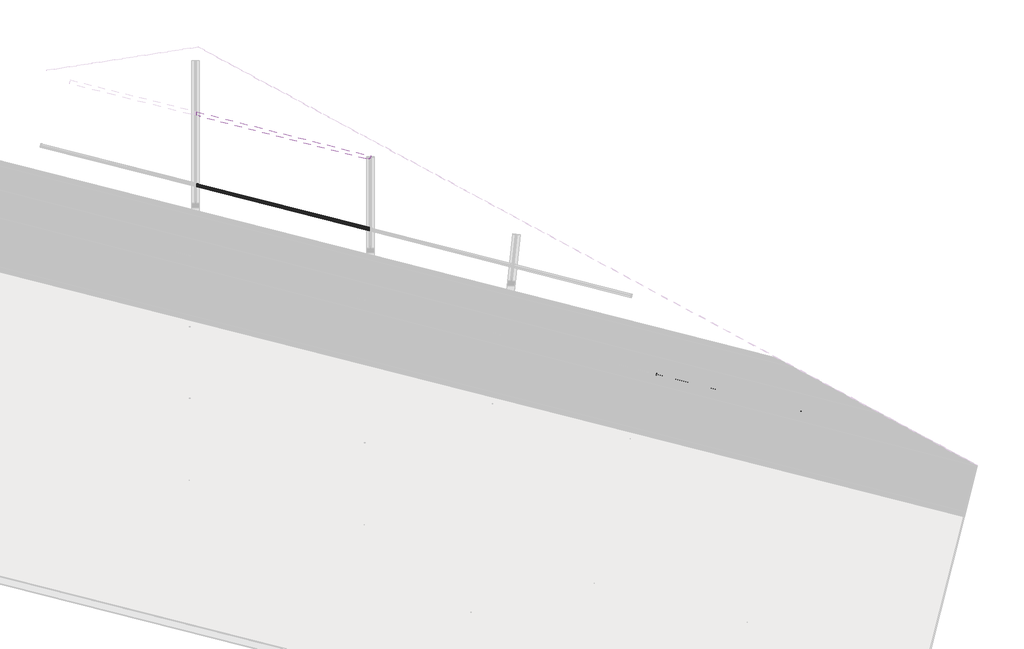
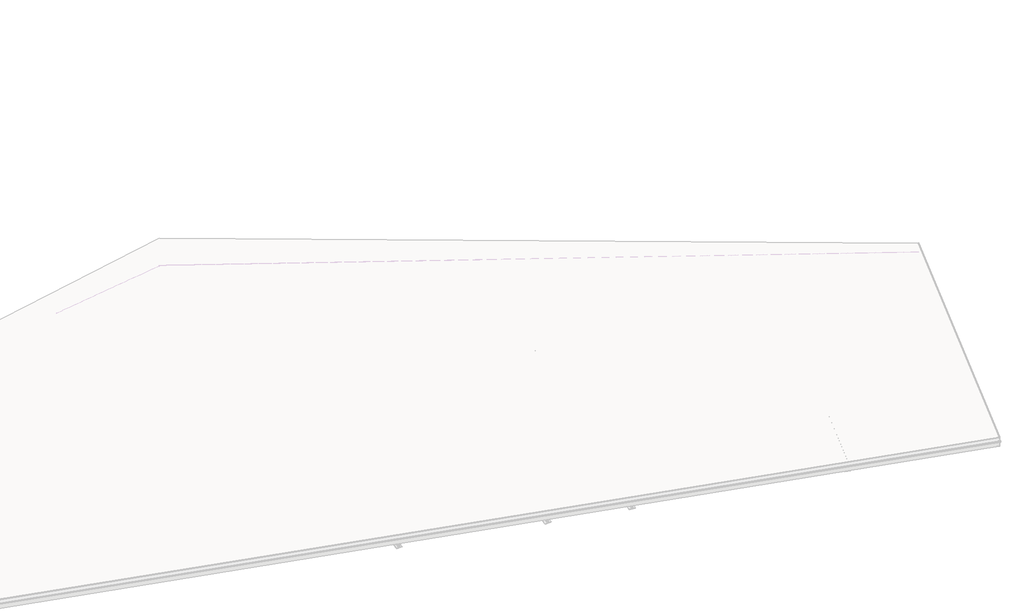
# One storey, part 10 of 10: 5 beams.
"""IFC4 building model written with IfcOpenShell, lengths in millimetres."""

from ifc_helpers import new_model, si_unit, frame, origin, place, context, project, spatial, polyline, circle_curve, ellipse_curve, element, save
from ifc_brep_helpers import plane_surface, cylinder_surface, revolved_surface, advanced_brep

model = new_model("IFC4")

# Units and contexts
model_context = context("Model", 3, world=origin())
ifc_project = project(units=[si_unit("LENGTHUNIT", "METRE", prefix="MILLI")], contexts=[model_context])

# Site, building, storey
site = spatial("IfcSite", under=ifc_project)
building = spatial("IfcBuilding", under=site)
storey = spatial("IfcBuildingStorey", under=building, Name="2 Toiture batiment", Elevation=872910.0)

# Beams
placement = place(None, origin())
element("IfcBeam", 1, ObjectType="IPE : IPE160", at=placement, inside=storey, context=model_context, shape_type="AdvancedBrep", body=[
    advanced_brep(
    [(51715.4096691, 892.2085035, 873605.6408142), (51715.632162, 893.0824599, 873598.2959727), (51735.7117389, 971.9554263, 873608.2892588), (51735.489246, 971.0814698, 873615.6341003), (51728.2654958, 942.7064392, 873612.0389547), (51725.7910403, 932.9867302, 873619.875046), (51721.9665675, 917.964127, 873746.1269165), (51723.899824, 925.557996, 873756.1566559), (51731.1235742, 953.9330266, 873759.7518016), (51730.9010813, 953.0590701, 873767.0966431), (51710.8215043, 874.1861038, 873757.1033569), (51711.0439973, 875.0600602, 873749.7585154), (51718.2677475, 903.4350908, 873753.353661), (51720.742203, 913.1547998, 873745.5175698), (51724.5666758, 928.177403, 873619.2656993), (51722.6334193, 920.583534, 873609.2359598), (47848.3158636, 1906.9120717, 873609.2359598), (47841.0921133, 1878.5370411, 873605.6408142), (47850.2491201, 1914.5059406, 873619.2656993), (47924.9208469, 1879.4996782, 873745.5175698), (47925.3719417, 1881.2715871, 873730.6262221), (47846.875742, 1901.2552463, 873730.6262221), (47922.4463914, 1869.7799692, 873753.353661), (47915.2226412, 1841.4049386, 873749.7585154), (47915.0001483, 1840.5309821, 873757.1033569), (47935.0797252, 1919.4039485, 873767.0966431), (47935.3022182, 1920.277905, 873759.7518016), (47928.0784679, 1891.9028744, 873756.1566559), (47926.1452114, 1884.3090054, 873746.1269165), (47851.4734845, 1919.3152678, 873619.875046), (47848.1003929, 1906.0656987, 873731.2261128), (47926.5965926, 1886.0820394, 873731.2261128), (47853.94794, 1929.0349769, 873612.0389547), (47861.1716903, 1957.4100074, 873615.6341003), (47861.3941832, 1958.2839639, 873608.2892588), (47841.3146062, 1879.4109976, 873598.2959727)],
    [
        (0, 1),
        (1, 2),
        (2, 3),
        (3, 4),
        (4, 5, circle_curve(frame((51727.9948963, 941.6435192, 873620.9718701), z_axis=(-0.9690888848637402, 0.24671184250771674, 0.0), x_axis=(0.24487288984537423, 0.9618654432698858, 0.12186934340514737)), 9.0)),
        (5, 6),
        (6, 7, circle_curve(frame((51724.1704235, 926.620916, 873747.2237406), z_axis=(-0.9690888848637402, 0.24671184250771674, 0.0), x_axis=(0.24487288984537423, 0.9618654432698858, 0.12186934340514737)), 9.0)),
        (7, 8),
        (8, 9),
        (9, 10),
        (10, 11),
        (11, 12),
        (12, 13, circle_curve(frame((51718.538347, 904.4980108, 873744.4207457), z_axis=(-0.9690888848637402, 0.24671184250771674, 0.0), x_axis=(0.24487288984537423, 0.9618654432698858, 0.12186934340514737)), 9.0)),
        (13, 14),
        (14, 15, circle_curve(frame((51722.3628198, 919.520614, 873618.1688752), z_axis=(-0.9690888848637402, 0.24671184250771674, 0.0), x_axis=(0.24487288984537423, 0.9618654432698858, 0.12186934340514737)), 9.0)),
        (15, 0),
        (15, 16),
        (16, 17),
        (17, 0),
        (14, 18),
        (18, 16, circle_curve(frame((47848.0452641, 1905.8491516, 873618.1688752), z_axis=(-0.9690888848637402, 0.24671184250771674, 0.0), x_axis=(0.24487288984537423, 0.9618654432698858, 0.12186934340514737)), 9.0)),
        (13, 19),
        (19, 20),
        (20, 21),
        (21, 18),
        (12, 22),
        (22, 19, circle_curve(frame((47922.7169909, 1870.8428892, 873744.4207457), z_axis=(-0.9690888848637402, 0.24671184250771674, 0.0), x_axis=(0.24487288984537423, 0.9618654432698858, 0.12186934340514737)), 9.0)),
        (11, 23),
        (23, 22),
        (10, 24),
        (24, 23),
        (9, 25),
        (25, 24),
        (8, 26),
        (26, 25),
        (7, 27),
        (27, 26),
        (6, 28),
        (28, 27, circle_curve(frame((47928.3490674, 1892.9657944, 873747.2237406), z_axis=(-0.9690888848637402, 0.24671184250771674, 0.0), x_axis=(0.24487288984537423, 0.9618654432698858, 0.12186934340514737)), 9.0)),
        (5, 29),
        (29, 30),
        (30, 31),
        (31, 28),
        (4, 32),
        (32, 29, circle_curve(frame((47853.6773405, 1927.9720568, 873620.9718701), z_axis=(-0.9690888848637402, 0.24671184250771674, 0.0), x_axis=(0.24487288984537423, 0.9618654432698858, 0.12186934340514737)), 9.0)),
        (3, 33),
        (33, 32),
        (2, 34),
        (34, 33),
        (1, 35),
        (35, 34),
        (17, 35),
        (31, 20),
        (30, 21),
    ],
    [
        plane_surface(frame((51723.2666216, 923.070765, 873682.6963079), z_axis=(0.9690888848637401, -0.24671184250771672, 0.0), x_axis=(-0.03006661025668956, -0.11810222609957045, 0.992546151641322))),
        plane_surface(frame((47814.8269075, 1885.2236696, 873605.6408142), z_axis=(-0.03006661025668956, -0.11810222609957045, 0.9925461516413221), x_axis=(0.9690888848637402, -0.24671184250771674, 0.0))),
        revolved_surface(polyline([(51724.56667582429, 928.1774029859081, 873619.2656992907), (47850.24912010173, 1914.5059406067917, 873619.2656992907)]), (47821.7800582, 1912.5357801, 873618.1688752), (0.9690888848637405, -0.2467118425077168, 0.0)),
        plane_surface(frame((47823.9839143, 1921.1925691, 873619.2656993), z_axis=(-0.24487288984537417, -0.9618654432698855, -0.12186934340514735), x_axis=(0.9690888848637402, -0.24671184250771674, 0.0))),
        revolved_surface(polyline([(51720.742203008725, 913.1547997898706, 873745.5175697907), (47924.920846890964, 1879.4996781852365, 873745.5175697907)]), (47817.9555854, 1897.5131769, 873744.4207457), (0.9690888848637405, -0.2467118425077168, 0.0)),
        plane_surface(frame((47817.6849859, 1896.4502569, 873753.353661), z_axis=(0.03006661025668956, 0.11810222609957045, -0.9925461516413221), x_axis=(0.9690888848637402, -0.24671184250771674, 0.0))),
        plane_surface(frame((47810.4612357, 1868.0752263, 873749.7585154), z_axis=(-0.24487288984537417, -0.9618654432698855, -0.12186934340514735), x_axis=(0.9690888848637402, -0.24671184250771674, 0.0))),
        plane_surface(frame((47810.2387428, 1867.2012698, 873757.1033569), z_axis=(-0.03006661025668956, -0.11810222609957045, 0.9925461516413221), x_axis=(0.9690888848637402, -0.24671184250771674, 0.0))),
        plane_surface(frame((47830.3183197, 1946.0742362, 873767.0966431), z_axis=(0.24487288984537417, 0.9618654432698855, 0.12186934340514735), x_axis=(0.9690888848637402, -0.24671184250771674, 0.0))),
        plane_surface(frame((47830.5408126, 1946.9481927, 873759.7518016), z_axis=(0.03006661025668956, 0.11810222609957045, -0.9925461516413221), x_axis=(0.9690888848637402, -0.24671184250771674, 0.0))),
        revolved_surface(polyline([(51726.37427951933, 935.2777049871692, 873748.3205646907), (47930.55292339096, 1901.6225833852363, 873748.3205646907)]), (47823.5876619, 1919.6360821, 873747.2237406), (0.9690888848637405, -0.2467118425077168, 0.0)),
        plane_surface(frame((47821.3838059, 1910.9792931, 873746.1269165), z_axis=(0.24487288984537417, 0.9618654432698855, 0.12186934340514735), x_axis=(0.9690888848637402, -0.24671184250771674, 0.0))),
        revolved_surface(polyline([(51730.198752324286, 950.300308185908, 873622.0686941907), (47855.88119651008, 1936.628845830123, 873622.0686941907)]), (47827.4121347, 1934.6586853, 873620.9718701), (0.9690888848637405, -0.2467118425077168, 0.0)),
        plane_surface(frame((47827.6827342, 1935.7216053, 873612.0389547), z_axis=(-0.03006661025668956, -0.11810222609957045, 0.9925461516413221), x_axis=(0.9690888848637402, -0.24671184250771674, 0.0))),
        plane_surface(frame((47834.9064845, 1964.0966359, 873615.6341003), z_axis=(0.24487288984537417, 0.9618654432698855, 0.12186934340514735), x_axis=(0.9690888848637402, -0.24671184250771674, 0.0))),
        plane_surface(frame((47835.1289774, 1964.9705924, 873608.2892588), z_axis=(0.03006661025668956, 0.11810222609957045, -0.9925461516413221), x_axis=(0.9690888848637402, -0.24671184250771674, 0.0))),
        plane_surface(frame((47815.0494004, 1886.097626, 873598.2959727), z_axis=(-0.24487288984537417, -0.9618654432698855, -0.12186934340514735), x_axis=(0.9690888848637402, -0.24671184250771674, 0.0))),
        plane_surface(frame((48468.6494081, 4015.2759737, 874049.8321259), z_axis=(-0.9690888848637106, 0.24671184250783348, 0.0), x_axis=(-0.24492973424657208, -0.9620887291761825, -0.11997792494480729))),
        plane_surface(frame((48470.2093268, 4021.4033644, 873997.5128012), z_axis=(-0.029599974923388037, -0.1162692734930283, 0.992776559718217), x_axis=(-0.24492973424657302, -0.9620887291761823, -0.11997792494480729))),
        plane_surface(frame((48391.7131271, 4041.3870236, 873997.5128012), z_axis=(-0.9690888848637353, 0.24671184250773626, 0.0), x_axis=(-0.24492973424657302, -0.9620887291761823, -0.11997792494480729))),
    ],
    [
        (0, [[1, 2, 3, 4, 5, 6, 7, 8, 9, 10, 11, 12, 13, 14, 15, 16]]),
        (1, [[-16, 17, 18, 19]]),
        (2, [[-15, 20, 21, -17]]),
        (3, [[-14, 22, 23, 24, 25, -20]]),
        (4, [[-13, 26, 27, -22]]),
        (5, [[-12, 28, 29, -26]]),
        (6, [[-11, 30, 31, -28]]),
        (7, [[-10, 32, 33, -30]]),
        (8, [[-9, 34, 35, -32]]),
        (9, [[-8, 36, 37, -34]]),
        (10, [[-7, 38, 39, -36]]),
        (11, [[-6, 40, 41, 42, 43, -38]]),
        (12, [[-5, 44, 45, -40]]),
        (13, [[-4, 46, 47, -44]]),
        (14, [[-3, 48, 49, -46]]),
        (15, [[-2, 50, 51, -48]]),
        (16, [[-1, -19, 52, -50]]),
        (17, [[53, -23, -27, -29, -31, -33, -35, -37, -39, -43]]),
        (18, [[-53, -42, 54, -24]]),
        (19, [[-54, -41, -45, -47, -49, -51, -52, -18, -21, -25]]),
    ],
),
])
element("IfcBeam", 2, ObjectType="IPE : IPE160", at=placement, inside=storey, context=model_context, shape_type="AdvancedBrep", body=[
    advanced_brep(
    [(44512.6174905, 4488.0884133, 873823.2413242), (44519.8502292, 4516.4611556, 873826.8364579), (44521.8085619, 4524.0486406, 873836.866164), (44518.2997414, 4508.9456783, 873963.1176143), (44515.8448775, 4499.2209816, 873970.9536795), (44508.6121387, 4470.8482394, 873967.3585458), (44508.4080093, 4469.9696079, 873974.7033629), (44528.5125712, 4548.8362135, 873984.6966158), (44528.7167007, 4549.714845, 873977.3517987), (44521.483962, 4521.3421027, 873973.756665), (44519.5256293, 4513.7546177, 873963.726959), (44523.0344498, 4528.85758, 873837.4755087), (44525.4893137, 4538.5822767, 873829.6394435), (44532.7220524, 4566.955019, 873833.2345771), (44532.9261819, 4567.8336504, 873825.88976), (44512.82162, 4488.9670448, 873815.8965071), (48215.8888977, 3545.3050149, 873813.3823684), (48223.112648, 3573.6800455, 873816.977526), (48225.0459045, 3581.2739145, 873827.0072988), (48221.713221, 3568.1830691, 873937.0247968), (48143.2232591, 3588.1912304, 873937.0278523), (48142.725232, 3586.2349706, 873953.4685643), (48140.2507765, 3576.5152615, 873961.3046817), (48133.0270263, 3548.140231, 873957.7095241), (48132.8045333, 3547.2662745, 873965.0543901), (48152.8841103, 3626.1392408, 873975.0477095), (48153.1066032, 3627.0131973, 873967.7028435), (48145.882853, 3598.6381667, 873964.1076859), (48143.9495965, 3591.0442978, 873954.0779131), (48144.44791, 3593.0016831, 873937.6277431), (48222.9378719, 3572.9935217, 873937.6246875), (48226.270269, 3586.0832417, 873827.6166476), (48228.7447245, 3595.8029507, 873819.7805302), (48235.9684747, 3624.1779813, 873823.3756878), (48236.1909676, 3625.0519378, 873816.0308218), (48216.1113907, 3546.1789714, 873806.0375024)],
    [
        (0, 1),
        (1, 2, circle_curve(frame((44519.6019636, 4515.3925498, 873835.7693435), z_axis=(0.9690856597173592, -0.2467110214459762, -0.0025799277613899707), x_axis=(0.24517758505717, 0.9617878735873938, 0.12186893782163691)), 9.0)),
        (2, 3),
        (3, 4, circle_curve(frame((44516.0931431, 4500.2895874, 873962.0207938), z_axis=(0.9690856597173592, -0.2467110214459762, -0.0025799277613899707), x_axis=(0.24517758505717, 0.9617878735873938, 0.12186893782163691)), 9.0)),
        (4, 5),
        (5, 6),
        (6, 7),
        (7, 8),
        (8, 9),
        (9, 10, circle_curve(frame((44521.7322276, 4522.4107085, 873964.8237794), z_axis=(0.9690856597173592, -0.2467110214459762, -0.0025799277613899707), x_axis=(0.24517758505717, 0.9617878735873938, 0.12186893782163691)), 9.0)),
        (10, 11),
        (11, 12, circle_curve(frame((44525.2410481, 4537.5136709, 873838.5723291), z_axis=(0.9690856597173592, -0.2467110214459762, -0.0025799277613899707), x_axis=(0.24517758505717, 0.9617878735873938, 0.12186893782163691)), 9.0)),
        (12, 13),
        (13, 14),
        (14, 15),
        (15, 0),
        (0, 16),
        (16, 17),
        (17, 1),
        (17, 18, ellipse_curve(frame((48222.8420485, 3572.6171255, 873825.9104711), z_axis=(0.9690888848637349, -0.24671184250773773, 0.0), x_axis=(2.0655890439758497e-12, 8.337664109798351e-12, -1.0)), 9.00003, 9.0)),
        (18, 2),
        (18, 19),
        (19, 20),
        (20, 21),
        (21, 3),
        (21, 22, ellipse_curve(frame((48140.521376, 3577.5781816, 873952.3717366), z_axis=(0.9690888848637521, -0.24671184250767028, 0.0), x_axis=(-5.120939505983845e-12, -1.766508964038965e-11, -0.9999999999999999)), 9.00003, 9.0)),
        (22, 4),
        (22, 23),
        (23, 5),
        (23, 24),
        (24, 6),
        (24, 25),
        (25, 7),
        (25, 26),
        (26, 8),
        (26, 27),
        (27, 9),
        (27, 28, ellipse_curve(frame((48146.1534525, 3599.7010868, 873955.1747408), z_axis=(0.9690888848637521, -0.24671184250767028, 0.0), x_axis=(-5.120939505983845e-12, -1.766508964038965e-11, -0.9999999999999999)), 9.00003, 9.0)),
        (28, 10),
        (28, 29),
        (29, 30),
        (30, 31),
        (31, 11),
        (31, 32, ellipse_curve(frame((48228.474125, 3594.7400307, 873828.7134753), z_axis=(0.9690888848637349, -0.24671184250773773, 0.0), x_axis=(2.0655890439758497e-12, 8.337664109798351e-12, -1.0)), 9.00003, 9.0)),
        (32, 12),
        (32, 33),
        (33, 13),
        (33, 34),
        (34, 14),
        (34, 35),
        (35, 15),
        (35, 16),
        (30, 19),
        (29, 20),
    ],
    [
        plane_surface(frame((44520.6670956, 4518.9016292, 873900.2965615), z_axis=(-0.969085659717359, 0.24671102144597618, 0.002579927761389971), x_axis=(-0.02758506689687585, -0.11873398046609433, 0.9925428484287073))),
        plane_surface(frame((44512.6174905, 4488.0884133, 873823.2413242), z_axis=(-0.027585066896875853, -0.11873398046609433, 0.9925428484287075), x_axis=(0.9690856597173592, -0.2467110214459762, -0.0025799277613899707))),
        revolved_surface(polyline([(48225.071148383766, 3581.2674878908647, 873827.0072315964), (44521.80856186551, 4524.048640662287, 873836.8661639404)]), (44519.6019636, 4515.3925498, 873835.7693435), (0.9690856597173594, -0.24671102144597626, -0.002579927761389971)),
        plane_surface(frame((44521.8085619, 4524.0486406, 873836.866164), z_axis=(-0.24517758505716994, -0.9617878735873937, -0.12186893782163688), x_axis=(0.9690856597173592, -0.2467110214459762, -0.0025799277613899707))),
        revolved_surface(polyline([(48142.750475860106, 3586.2285438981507, 873953.4684970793), (44518.29974136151, 4508.945678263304, 873963.1176142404)]), (44516.0931431, 4500.2895874, 873962.0207938), (0.9690856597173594, -0.24671102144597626, -0.002579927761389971)),
        plane_surface(frame((44515.8448775, 4499.2209816, 873970.9536795), z_axis=(0.027585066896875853, 0.11873398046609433, -0.9925428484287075), x_axis=(0.9690856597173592, -0.2467110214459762, -0.0025799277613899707))),
        plane_surface(frame((44508.6121387, 4470.8482394, 873967.3585458), z_axis=(-0.24517758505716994, -0.9617878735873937, -0.12186893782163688), x_axis=(0.9690856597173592, -0.2467110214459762, -0.0025799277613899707))),
        plane_surface(frame((44508.4080093, 4469.9696079, 873974.7033629), z_axis=(-0.027585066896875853, -0.11873398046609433, 0.9925428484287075), x_axis=(0.9690856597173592, -0.2467110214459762, -0.0025799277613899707))),
        plane_surface(frame((44528.5125712, 4548.8362135, 873984.6966158), z_axis=(0.24517758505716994, 0.9617878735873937, 0.12186893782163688), x_axis=(0.9690856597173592, -0.2467110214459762, -0.0025799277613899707))),
        plane_surface(frame((44528.7167007, 4549.714845, 873977.3517987), z_axis=(0.027585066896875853, 0.11873398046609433, -0.9925428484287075), x_axis=(0.9690856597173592, -0.2467110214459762, -0.0025799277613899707))),
        revolved_surface(polyline([(48148.38255236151, 3608.3514491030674, 873956.2715013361), (44523.93882581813, 4531.066799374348, 873965.9205998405)]), (44521.7322276, 4522.4107085, 873964.8237794), (0.9690856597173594, -0.24671102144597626, -0.002579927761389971)),
        plane_surface(frame((44519.5256293, 4513.7546177, 873963.726959), z_axis=(0.24517758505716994, 0.9617878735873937, 0.12186893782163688), x_axis=(0.9690856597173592, -0.2467110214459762, -0.0025799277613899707))),
        revolved_surface(polyline([(48230.70322488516, 3603.390393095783, 873829.8102358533), (44527.447646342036, 4546.169761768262, 873839.6691495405)]), (44525.2410481, 4537.5136709, 873838.5723291), (0.9690856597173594, -0.24671102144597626, -0.002579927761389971)),
        plane_surface(frame((44525.4893137, 4538.5822767, 873829.6394435), z_axis=(-0.027585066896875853, -0.11873398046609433, 0.9925428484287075), x_axis=(0.9690856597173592, -0.2467110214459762, -0.0025799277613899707))),
        plane_surface(frame((44532.7220524, 4566.955019, 873833.2345771), z_axis=(0.24517758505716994, 0.9617878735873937, 0.12186893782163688), x_axis=(0.9690856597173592, -0.2467110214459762, -0.0025799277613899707))),
        plane_surface(frame((44532.9261819, 4567.8336504, 873825.88976), z_axis=(0.027585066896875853, 0.11873398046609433, -0.9925428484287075), x_axis=(0.9690856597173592, -0.2467110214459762, -0.0025799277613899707))),
        plane_surface(frame((44512.82162, 4488.9670448, 873815.8965071), z_axis=(-0.24517758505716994, -0.9617878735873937, -0.12186893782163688), x_axis=(0.9690856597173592, -0.2467110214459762, -0.0025799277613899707))),
        plane_surface(frame((48353.9170133, 4087.4821201, 873705.0408267), z_axis=(0.9690888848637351, -0.24671184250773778, 0.0), x_axis=(-0.24492973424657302, -0.9620887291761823, -0.11997792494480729))),
        plane_surface(frame((48345.1968607, 4053.2291921, 873997.5128012), z_axis=(-0.02959997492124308, -0.11626927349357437, 0.992776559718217), x_axis=(-0.24492973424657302, -0.9620887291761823, -0.11997792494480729))),
        plane_surface(frame((48266.700661, 4073.2128513, 873997.5128012), z_axis=(0.9690888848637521, -0.24671184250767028, 0.0), x_axis=(-0.24492973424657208, -0.9620887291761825, -0.11997792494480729))),
    ],
    [
        (0, [[1, 2, 3, 4, 5, 6, 7, 8, 9, 10, 11, 12, 13, 14, 15, 16]]),
        (1, [[-1, 17, 18, 19]]),
        (2, [[-2, -19, 20, 21]]),
        (3, [[-3, -21, 22, 23, 24, 25]]),
        (4, [[-4, -25, 26, 27]]),
        (5, [[-5, -27, 28, 29]]),
        (6, [[-6, -29, 30, 31]]),
        (7, [[-7, -31, 32, 33]]),
        (8, [[-8, -33, 34, 35]]),
        (9, [[-9, -35, 36, 37]]),
        (10, [[-10, -37, 38, 39]]),
        (11, [[-11, -39, 40, 41, 42, 43]]),
        (12, [[-12, -43, 44, 45]]),
        (13, [[-13, -45, 46, 47]]),
        (14, [[-14, -47, 48, 49]]),
        (15, [[-15, -49, 50, 51]]),
        (16, [[-16, -51, 52, -17]]),
        (17, [[53, -22, -20, -18, -52, -50, -48, -46, -44, -42]]),
        (18, [[-53, -41, 54, -23]]),
        (19, [[-54, -40, -38, -36, -34, -32, -30, -28, -26, -24]]),
    ],
),
])
element("IfcBeam", 3, ObjectType="IPE : IPE160", at=placement, inside=storey, context=model_context, shape_type="AdvancedBrep", body=[
    advanced_brep(
    [(50368.8371441, 3000.1394732, 873823.2408142), (50369.059637, 3001.0134297, 873815.8959727), (50389.139214, 3079.886396, 873825.8892588), (50388.9167211, 3079.0124396, 873833.2341003), (50381.6929708, 3050.637409, 873829.6389547), (50379.2185153, 3040.9176999, 873837.475046), (50375.3940425, 3025.8950968, 873963.7269165), (50377.327299, 3033.4889657, 873973.7566559), (50384.5510493, 3061.8639963, 873977.3518016), (50384.3285564, 3060.9900398, 873984.6966431), (50364.2489794, 2982.1170735, 873974.7033569), (50364.4714723, 2982.99103, 873967.3585154), (50371.6952226, 3011.3660605, 873970.953661), (50374.1696781, 3021.0857696, 873963.1175698), (50377.9941509, 3036.1083727, 873836.8656993), (50376.0608944, 3028.5145038, 873826.8359598), (48270.3305535, 3564.5939288, 873826.8359598), (48263.1068033, 3536.2188983, 873823.2408142), (48272.26381, 3572.1877978, 873836.8656993), (48346.9355369, 3537.1815354, 873963.1175698), (48347.7113242, 3540.2288431, 873937.5076075), (48269.2151246, 3560.2125023, 873937.5076075), (48344.4610814, 3527.4618264, 873970.953661), (48337.2373311, 3499.0867958, 873967.3585154), (48337.0148382, 3498.2128393, 873974.7033569), (48357.0944152, 3577.0858057, 873984.6966431), (48357.3169081, 3577.9597621, 873977.3518016), (48350.0931578, 3549.5847316, 873973.7566559), (48348.1599013, 3541.9908626, 873963.7269165), (48273.4881745, 3576.997125, 873837.475046), (48270.4397755, 3565.0229547, 873938.1074982), (48348.9359751, 3545.0392955, 873938.1074982), (48275.96263, 3586.716834, 873829.6389547), (48283.1863802, 3615.0918646, 873833.2341003), (48283.4088731, 3615.9658211, 873825.8892588), (48263.3292962, 3537.0928547, 873815.8959727)],
    [
        (0, 1),
        (1, 2),
        (2, 3),
        (3, 4),
        (4, 5, circle_curve(frame((50381.4223714, 3049.5744889, 873838.5718701), z_axis=(-0.9690888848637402, 0.24671184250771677, 0.0), x_axis=(0.24487288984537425, 0.9618654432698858, 0.12186934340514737)), 9.0)),
        (5, 6),
        (6, 7, circle_curve(frame((50377.5978985, 3034.5518858, 873964.8237406), z_axis=(-0.9690888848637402, 0.24671184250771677, 0.0), x_axis=(0.24487288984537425, 0.9618654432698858, 0.12186934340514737)), 9.0)),
        (7, 8),
        (8, 9),
        (9, 10),
        (10, 11),
        (11, 12),
        (12, 13, circle_curve(frame((50371.9658221, 3012.4289806, 873962.0207457), z_axis=(-0.9690888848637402, 0.24671184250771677, 0.0), x_axis=(0.24487288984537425, 0.9618654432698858, 0.12186934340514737)), 9.0)),
        (13, 14),
        (14, 15, circle_curve(frame((50375.7902949, 3027.4515837, 873835.7688752), z_axis=(-0.9690888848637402, 0.24671184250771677, 0.0), x_axis=(0.24487288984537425, 0.9618654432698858, 0.12186934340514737)), 9.0)),
        (15, 0),
        (15, 16),
        (16, 17),
        (17, 0),
        (14, 18),
        (18, 16, circle_curve(frame((48270.059954, 3563.5310088, 873835.7688752), z_axis=(-0.9690888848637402, 0.24671184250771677, 0.0), x_axis=(0.24487288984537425, 0.9618654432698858, 0.12186934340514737)), 9.0)),
        (13, 19),
        (19, 20),
        (20, 21),
        (21, 18),
        (12, 22),
        (22, 19, circle_curve(frame((48344.7316809, 3528.5247464, 873962.0207457), z_axis=(-0.9690888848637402, 0.24671184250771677, 0.0), x_axis=(0.24487288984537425, 0.9618654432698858, 0.12186934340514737)), 9.0)),
        (11, 23),
        (23, 22),
        (10, 24),
        (24, 23),
        (9, 25),
        (25, 24),
        (8, 26),
        (26, 25),
        (7, 27),
        (27, 26),
        (6, 28),
        (28, 27, circle_curve(frame((48350.3637573, 3550.6476516, 873964.8237406), z_axis=(-0.9690888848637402, 0.24671184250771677, 0.0), x_axis=(0.24487288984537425, 0.9618654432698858, 0.12186934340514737)), 9.0)),
        (5, 29),
        (29, 30),
        (30, 31),
        (31, 28),
        (4, 32),
        (32, 29, circle_curve(frame((48275.6920305, 3585.653914, 873838.5718701), z_axis=(-0.9690888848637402, 0.24671184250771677, 0.0), x_axis=(0.24487288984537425, 0.9618654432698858, 0.12186934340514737)), 9.0)),
        (3, 33),
        (33, 32),
        (2, 34),
        (34, 33),
        (1, 35),
        (35, 34),
        (17, 35),
        (31, 20),
        (30, 21),
    ],
    [
        plane_surface(frame((50376.6940967, 3031.0017348, 873900.2963079), z_axis=(0.9690888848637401, -0.24671184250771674, 0.0), x_axis=(-0.030066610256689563, -0.11810222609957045, 0.992546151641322))),
        plane_surface(frame((48236.8415974, 3542.9055267, 873823.2408142), z_axis=(-0.030066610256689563, -0.11810222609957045, 0.9925461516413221), x_axis=(0.9690888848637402, -0.24671184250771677, 0.0))),
        revolved_surface(polyline([(50377.99415092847, 3036.108372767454, 873836.8656992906), (48272.26381000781, 3572.1877978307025, 873836.8656992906)]), (48243.7947482, 3570.2176373, 873835.7688752), (0.9690888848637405, -0.24671184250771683, 0.0)),
        plane_surface(frame((48245.9986042, 3578.8744263, 873836.8656993), z_axis=(-0.2448728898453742, -0.9618654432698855, -0.12186934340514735), x_axis=(0.9690888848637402, -0.24671184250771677, 0.0))),
        revolved_surface(polyline([(50374.16967811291, 3021.0857695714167, 873963.1175697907), (48346.93553689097, 3537.1815353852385, 873963.1175697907)]), (48239.9702754, 3555.1950341, 873962.0207457), (0.9690888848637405, -0.24671184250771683, 0.0)),
        plane_surface(frame((48239.6996759, 3554.1321141, 873970.953661), z_axis=(0.030066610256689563, 0.11810222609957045, -0.9925461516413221), x_axis=(0.9690888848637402, -0.24671184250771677, 0.0))),
        plane_surface(frame((48232.4759256, 3525.7570835, 873967.3585154), z_axis=(-0.2448728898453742, -0.9618654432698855, -0.12186934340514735), x_axis=(0.9690888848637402, -0.24671184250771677, 0.0))),
        plane_surface(frame((48232.2534327, 3524.883127, 873974.7033569), z_axis=(-0.030066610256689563, -0.11810222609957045, 0.9925461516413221), x_axis=(0.9690888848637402, -0.24671184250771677, 0.0))),
        plane_surface(frame((48252.3330097, 3603.7560934, 873984.6966431), z_axis=(0.2448728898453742, 0.9618654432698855, 0.12186934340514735), x_axis=(0.9690888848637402, -0.24671184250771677, 0.0))),
        plane_surface(frame((48252.5555026, 3604.6300498, 873977.3518016), z_axis=(0.030066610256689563, 0.11810222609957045, -0.9925461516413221), x_axis=(0.9690888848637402, -0.24671184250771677, 0.0))),
        revolved_surface(polyline([(50379.801754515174, 3043.208674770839, 873965.9205646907), (48352.567613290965, 3559.3044405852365, 873965.9205646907)]), (48245.6023518, 3577.3179393, 873964.8237406), (0.9690888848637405, -0.24671184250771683, 0.0)),
        plane_surface(frame((48243.3984958, 3568.6611503, 873963.7269165), z_axis=(0.2448728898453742, 0.9618654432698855, 0.12186934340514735), x_axis=(0.9690888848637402, -0.24671184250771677, 0.0))),
        revolved_surface(polyline([(50383.626227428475, 3058.2312779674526, 873839.6686941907), (48277.89588651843, 3594.310703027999, 873839.6686941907)]), (48249.4268247, 3592.3405425, 873838.5718701), (0.9690888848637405, -0.24671184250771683, 0.0)),
        plane_surface(frame((48249.6974241, 3593.4034625, 873829.6389547), z_axis=(-0.030066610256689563, -0.11810222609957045, 0.9925461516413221), x_axis=(0.9690888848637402, -0.24671184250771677, 0.0))),
        plane_surface(frame((48256.9211744, 3621.7784931, 873833.2341003), z_axis=(0.2448728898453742, 0.9618654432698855, 0.12186934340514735), x_axis=(0.9690888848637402, -0.24671184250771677, 0.0))),
        plane_surface(frame((48257.1436673, 3622.6524495, 873825.8892588), z_axis=(0.030066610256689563, 0.11810222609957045, -0.9925461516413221), x_axis=(0.9690888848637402, -0.24671184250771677, 0.0))),
        plane_surface(frame((48237.0640903, 3543.7794832, 873815.8959727), z_axis=(-0.2448728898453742, -0.9618654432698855, -0.12186934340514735), x_axis=(0.9690888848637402, -0.24671184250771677, 0.0))),
        plane_surface(frame((48468.6494081, 4015.2759737, 874049.8321259), z_axis=(-0.9690888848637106, 0.24671184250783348, 0.0), x_axis=(-0.24492973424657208, -0.9620887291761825, -0.11997792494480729))),
        plane_surface(frame((48470.2093268, 4021.4033644, 873997.5128012), z_axis=(-0.029599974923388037, -0.1162692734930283, 0.992776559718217), x_axis=(-0.24492973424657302, -0.9620887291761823, -0.11997792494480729))),
        plane_surface(frame((48391.7131271, 4041.3870236, 873997.5128012), z_axis=(-0.9690888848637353, 0.24671184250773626, 0.0), x_axis=(-0.24492973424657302, -0.9620887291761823, -0.11997792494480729))),
    ],
    [
        (0, [[1, 2, 3, 4, 5, 6, 7, 8, 9, 10, 11, 12, 13, 14, 15, 16]]),
        (1, [[-16, 17, 18, 19]]),
        (2, [[-15, 20, 21, -17]]),
        (3, [[-14, 22, 23, 24, 25, -20]]),
        (4, [[-13, 26, 27, -22]]),
        (5, [[-12, 28, 29, -26]]),
        (6, [[-11, 30, 31, -28]]),
        (7, [[-10, 32, 33, -30]]),
        (8, [[-9, 34, 35, -32]]),
        (9, [[-8, 36, 37, -34]]),
        (10, [[-7, 38, 39, -36]]),
        (11, [[-6, 40, 41, 42, 43, -38]]),
        (12, [[-5, 44, 45, -40]]),
        (13, [[-4, 46, 47, -44]]),
        (14, [[-3, 48, 49, -46]]),
        (15, [[-2, 50, 51, -48]]),
        (16, [[-1, -19, 52, -50]]),
        (17, [[53, -23, -27, -29, -31, -33, -35, -37, -39, -43]]),
        (18, [[-53, -42, 54, -24]]),
        (19, [[-54, -41, -45, -47, -49, -51, -52, -18, -21, -25]]),
    ],
),
])
element("IfcBeam", 4, ObjectType="IPE : IPE160", at=placement, inside=storey, context=model_context, shape_type="AdvancedBrep", body=[
    advanced_brep(
    [(33097.4031572, 9194.0322343, 874033.2852794), (33097.4031572, 9163.8181725, 874029.674267), (37390.0284051, 8070.9963471, 874020.2504898), (37390.0284051, 8101.2104089, 874023.8615021), (33097.4031572, 9202.1182741, 874043.3192857), (37390.0284051, 8109.2964487, 874033.8955084), (33187.7031572, 9163.1333466, 874169.3648065), (33187.7031572, 9167.1141467, 874137.9479798), (33098.4031572, 9189.5404129, 874140.5735074), (33097.4031572, 9189.9172566, 874139.6107961), (37390.0284051, 8095.6273817, 874141.7729963), (37389.0284051, 8095.7528207, 874142.7943936), (37299.7284051, 8118.1804565, 874145.4091118), (37299.7284051, 8116.2888918, 874160.3375079), (33187.7031572, 9152.7836877, 874177.1954833), (37299.7284051, 8105.9392328, 874168.1681847), (33187.7031572, 9122.5696258, 874173.5844709), (37299.7284051, 8075.725171, 874164.5571723), (33187.7031572, 9121.6390268, 874180.9288406), (37299.7284051, 8074.794572, 874171.901542), (33187.7031572, 9205.6238766, 874190.9662309), (37299.7284051, 8158.7794218, 874181.9389323), (33187.7031572, 9206.5544756, 874183.6218612), (37299.7284051, 8159.7100208, 874174.5945626), (33187.7031572, 9176.3404138, 874180.0108488), (37299.7284051, 8129.495959, 874170.9835502), (33187.7031572, 9168.254374, 874169.9768425), (37299.7284051, 8121.4099192, 874160.9495439), (33187.7031572, 9172.2367346, 874138.5477005), (37299.7284051, 8123.3033572, 874146.0063634), (37389.0284051, 8100.8757214, 874143.3916452), (37390.0284051, 8100.7502824, 874142.3702479), (37390.0284051, 8114.4174761, 874034.5075444), (33097.4031572, 9207.2393015, 874043.9313217), (33097.4031572, 9195.0398445, 874140.2105168), (33098.4031572, 9194.6630007, 874141.1732281), (33097.4031572, 9217.5889604, 874036.1006449), (37390.0284051, 8124.7671351, 874026.6768677), (33097.4031572, 9247.8030223, 874039.7116573), (37390.0284051, 8154.9811969, 874030.2878801), (33097.4031572, 9248.7336212, 874032.3672876), (37390.0284051, 8155.9117959, 874022.9435104), (33097.4031572, 9164.7487714, 874022.3298973), (37390.0284051, 8071.9269461, 874012.9061201)],
    [
        (0, 1),
        (1, 2),
        (2, 3),
        (3, 0),
        (4, 0, ellipse_curve(frame((33097.4031572, 9192.9004247, 874042.2176209), z_axis=(-1.0, 0.0, 0.0), x_axis=(0.0, -0.9999628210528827, -0.008623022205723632)), 9.2870948, 9.0)),
        (3, 5, ellipse_curve(frame((37390.0284051, 8100.0785993, 874032.7938436), z_axis=(1.0, 0.0, 0.0), x_axis=(0.0, -0.9999628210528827, -0.008623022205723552)), 9.2870948, 9.0)),
        (5, 4),
        (6, 7),
        (7, 8),
        (8, 9, ellipse_curve(frame((33098.4031572, 9189.6661226, 874139.5813949), z_axis=(-0.24512414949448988, -0.9618014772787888, -0.12186906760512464), x_axis=(0.9687652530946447, -0.24786288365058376, 0.007607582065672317)), 1.0315148, 1.0)),
        (9, 4),
        (5, 10),
        (10, 11, ellipse_curve(frame((37389.0284051, 8095.878531, 874141.8022764), z_axis=(-0.24512414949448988, -0.9618014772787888, -0.12186906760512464), x_axis=(0.9686896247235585, -0.2480908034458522, 0.00955846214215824)), 1.0315197, 1.0)),
        (11, 12),
        (12, 13),
        (13, 6),
        (14, 6, ellipse_curve(frame((33187.7031572, 9153.9154972, 874168.2631418), z_axis=(-1.0, 0.0, 0.0), x_axis=(0.0, -0.9999628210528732, -0.008623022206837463)), 9.2870948, 9.0)),
        (13, 15, ellipse_curve(frame((37299.7284051, 8107.0710424, 874159.2358431), z_axis=(1.0, 0.0, 0.0), x_axis=(0.0, -0.999962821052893, -0.008623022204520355)), 9.2870948, 9.0)),
        (15, 14),
        (16, 14),
        (15, 17),
        (17, 16),
        (18, 16),
        (17, 19),
        (19, 18),
        (20, 18),
        (19, 21),
        (21, 20),
        (22, 20),
        (21, 23),
        (23, 22),
        (24, 22),
        (23, 25),
        (25, 24),
        (26, 24, ellipse_curve(frame((33187.7031572, 9177.4722234, 874171.0785073), z_axis=(-1.0, 0.0, 0.0), x_axis=(0.0, -0.9999628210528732, -0.008623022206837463)), 9.2870948, 9.0)),
        (25, 27, ellipse_curve(frame((37299.7284051, 8130.6277686, 874162.0512087), z_axis=(1.0, 0.0, 0.0), x_axis=(0.0, -0.999962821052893, -0.008623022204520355)), 9.2870948, 9.0)),
        (27, 26),
        (28, 26),
        (27, 29),
        (29, 30),
        (30, 31, ellipse_curve(frame((37389.0284051, 8101.0014317, 874142.399528), z_axis=(0.24512414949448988, 0.9618014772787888, 0.12186906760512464), x_axis=(0.9686896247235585, -0.2480908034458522, 0.00955846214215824)), 1.0315197, 1.0)),
        (31, 32),
        (32, 33),
        (33, 34),
        (34, 35, ellipse_curve(frame((33098.4031572, 9194.7887105, 874140.1811156), z_axis=(0.24512414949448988, 0.9618014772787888, 0.12186906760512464), x_axis=(0.9687652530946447, -0.24786288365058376, 0.007607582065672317)), 1.0315148, 1.0)),
        (35, 28),
        (36, 33, ellipse_curve(frame((33097.4031572, 9216.4571508, 874045.0329865), z_axis=(-1.0, 0.0, 0.0), x_axis=(0.0, -0.9999628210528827, -0.008623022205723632)), 9.2870948, 9.0)),
        (32, 37, ellipse_curve(frame((37390.0284051, 8123.6353255, 874035.6092092), z_axis=(1.0, 0.0, 0.0), x_axis=(0.0, -0.9999628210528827, -0.008623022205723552)), 9.2870948, 9.0)),
        (37, 36),
        (38, 36),
        (37, 39),
        (39, 38),
        (40, 38),
        (39, 41),
        (41, 40),
        (42, 40),
        (41, 43),
        (43, 42),
        (1, 42),
        (43, 2),
        (28, 7),
        (35, 8),
        (34, 9),
        (31, 10),
        (30, 11),
        (29, 12),
    ],
    [
        plane_surface(frame((33066.9451222, 9171.5722165, 874029.7411328), z_axis=(-0.02802026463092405, -0.11862318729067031, 0.9925439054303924), x_axis=(0.9690866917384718, -0.2467112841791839, -0.002127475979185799))),
        revolved_surface(polyline([(37394.45500654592, 8108.169518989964, 874033.8857905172), (33097.38879042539, 9202.121931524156, 874043.3193171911)]), (33073.9241022, 9198.8777514, 874042.2691654), (0.9690866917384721, -0.24671128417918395, -0.0021274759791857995)),
        plane_surface(frame((33076.1302196, 9207.5339647, 874043.365987), z_axis=(-0.24512414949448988, -0.9618014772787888, -0.12186906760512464), x_axis=(0.9690866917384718, -0.2467112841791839, -0.002127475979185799))),
        revolved_surface(polyline([(37304.15500655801, 8115.161962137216, 874160.3277900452), (33187.68879044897, 9163.137004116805, 874169.3648380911)]), (33070.3599246, 9183.788882, 874168.5207502), (0.9690866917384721, -0.24671128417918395, -0.0021274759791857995)),
        plane_surface(frame((33070.1077422, 9182.7212733, 874177.4536453), z_axis=(0.02802026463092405, 0.11862318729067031, -0.9925439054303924), x_axis=(0.9690866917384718, -0.2467112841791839, -0.002127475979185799))),
        plane_surface(frame((33062.8765798, 9154.3481297, 874173.8585078), z_axis=(-0.24512414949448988, -0.9618014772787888, -0.12186906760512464), x_axis=(0.9690866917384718, -0.2467112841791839, -0.002127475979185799))),
        plane_surface(frame((33062.6692298, 9153.4703182, 874181.2033327), z_axis=(-0.02802026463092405, -0.11862318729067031, 0.9925439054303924), x_axis=(0.9690866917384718, -0.2467112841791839, -0.002127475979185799))),
        plane_surface(frame((33082.7694101, 9232.3380393, 874191.1965963), z_axis=(0.24512414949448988, 0.9618014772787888, 0.12186906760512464), x_axis=(0.9690866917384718, -0.2467112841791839, -0.002127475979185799))),
        plane_surface(frame((33082.9767601, 9233.2158509, 874183.8517714), z_axis=(0.02802026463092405, 0.11862318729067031, -0.9925439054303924), x_axis=(0.9690866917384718, -0.2467112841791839, -0.002127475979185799))),
        revolved_surface(polyline([(37304.15500655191, 8138.718688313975, 874163.1431555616), (33187.68879044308, 9186.693730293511, 874172.1802036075)]), (33075.99778, 9205.910316, 874171.3237387), (0.9690866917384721, -0.24671128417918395, -0.0021274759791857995)),
        plane_surface(frame((33073.7916627, 9197.2541027, 874170.2269171), z_axis=(0.24512414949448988, 0.9618014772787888, 0.12186906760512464), x_axis=(0.9690866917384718, -0.2467112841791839, -0.002127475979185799))),
        revolved_surface(polyline([(37394.45500654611, 8131.726245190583, 874036.701156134), (33097.38879044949, 9225.678657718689, 874046.1346828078)]), (33079.5619577, 9220.9991854, 874045.072154), (0.9690866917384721, -0.24671128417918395, -0.0021274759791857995)),
        plane_surface(frame((33079.8141401, 9222.0667941, 874036.1392588), z_axis=(-0.02802026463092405, -0.11862318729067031, 0.9925439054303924), x_axis=(0.9690866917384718, -0.2467112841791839, -0.002127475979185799))),
        plane_surface(frame((33087.0453025, 9250.4399377, 874039.7343963), z_axis=(0.24512414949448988, 0.9618014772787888, 0.12186906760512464), x_axis=(0.9690866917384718, -0.2467112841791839, -0.002127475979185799))),
        plane_surface(frame((33087.2526524, 9251.3177493, 874032.3895714), z_axis=(0.02802026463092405, 0.11862318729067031, -0.9925439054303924), x_axis=(0.9690866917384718, -0.2467112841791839, -0.002127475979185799))),
        plane_surface(frame((33067.1524722, 9172.4500281, 874022.3963079), z_axis=(-0.24512414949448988, -0.9618014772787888, -0.12186906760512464), x_axis=(0.9690866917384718, -0.2467112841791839, -0.002127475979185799))),
        plane_surface(frame((33187.7031572, 12263.0191844, 874555.3701791), z_axis=(-1.0, 0.0, 0.0), x_axis=(0.0, -0.9932165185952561, -0.11627960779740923))),
        plane_surface(frame((33187.7031572, 12269.368051, 874501.1405571), z_axis=(0.0, -0.11627960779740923, 0.9932165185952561), x_axis=(0.0, -0.9932165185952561, -0.11627960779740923))),
        cylinder_surface(frame((33098.4031572, 5419.220341, 873698.1610717), z_axis=(0.0, -0.9932165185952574, -0.11627960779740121), x_axis=(0.0, -0.11627960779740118, 0.9932165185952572)), 1.0),
        plane_surface(frame((33097.4031572, 12269.4843306, 874500.1473406), z_axis=(-1.0, 0.0, 0.0), x_axis=(0.0, -0.9932165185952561, -0.1162796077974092))),
        plane_surface(frame((37390.0284051, 9923.9047847, 873973.5564588), z_axis=(1.0000000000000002, 0.0, 0.0), x_axis=(0.0, -0.9932725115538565, -0.11580033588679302))),
        cylinder_surface(frame((37389.0284051, 3683.1614087, 873627.3471606), z_axis=(0.0, -0.9932725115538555, -0.11580033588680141), x_axis=(1.0, 0.0, 0.0)), 1.0),
        plane_surface(frame((37389.0284051, 9879.9238171, 874350.8013587), z_axis=(0.0, -0.11580033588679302, 0.9932725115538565), x_axis=(0.0, -0.9932725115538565, -0.11580033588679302))),
        plane_surface(frame((37299.7284051, 9879.9238171, 874350.8013587), z_axis=(1.0000000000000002, 0.0, 0.0), x_axis=(0.0, -0.9932725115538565, -0.11580033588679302))),
    ],
    [
        (0, [[1, 2, 3, 4]]),
        (1, [[5, -4, 6, 7]]),
        (2, [[8, 9, 10, 11, -7, 12, 13, 14, 15, 16]]),
        (3, [[17, -16, 18, 19]]),
        (4, [[20, -19, 21, 22]]),
        (5, [[23, -22, 24, 25]]),
        (6, [[26, -25, 27, 28]]),
        (7, [[29, -28, 30, 31]]),
        (8, [[32, -31, 33, 34]]),
        (9, [[35, -34, 36, 37]]),
        (10, [[38, -37, 39, 40, 41, 42, 43, 44, 45, 46]]),
        (11, [[47, -43, 48, 49]]),
        (12, [[50, -49, 51, 52]]),
        (13, [[53, -52, 54, 55]]),
        (14, [[56, -55, 57, 58]]),
        (15, [[59, -58, 60, -2]]),
        (16, [[61, -8, -17, -20, -23, -26, -29, -32, -35, -38]]),
        (17, [[-61, -46, 62, -9]]),
        (18, [[-62, -45, 63, -10]]),
        (19, [[-63, -44, -47, -50, -53, -56, -59, -1, -5, -11]]),
        (20, [[64, -12, -6, -3, -60, -57, -54, -51, -48, -42]]),
        (21, [[-64, -41, 65, -13]]),
        (22, [[-65, -40, 66, -14]]),
        (23, [[-66, -39, -36, -33, -30, -27, -24, -21, -18, -15]]),
    ],
),
])
element("IfcBeam", 5, ObjectType="IPE : IPE160", at=placement, inside=storey, context=model_context, shape_type="AdvancedBrep", body=[
    advanced_brep(
    [(37429.5676016, 9930.3750825, 874238.4892588), (37429.3451087, 9929.501126, 874245.8341003), (37422.1213584, 9901.1260955, 874242.2389547), (37419.7757637, 9891.9125542, 874247.9684707), (37420.1955476, 9893.5614732, 874233.8249366), (33097.4031572, 10978.5614583, 874239.4359598), (33097.4031572, 10948.3473965, 874235.8408142), (37390.0284051, 9855.5255711, 874235.8408142), (37390.0284051, 9885.7396329, 874239.4359598), (33097.4031572, 10986.6474981, 874249.4656993), (37390.0284051, 9892.4312683, 874243.519222), (37398.2288227, 9891.7380003, 874249.4656993), (33187.7031572, 10947.6625706, 874375.7175698), (33187.7031572, 10951.322405, 874346.831977), (33098.4031572, 10973.7242148, 874349.4546414), (33097.4031572, 10974.1007767, 874348.4918971), (37393.211913, 9877.0189692, 874375.7175698), (33187.7031572, 10937.3129117, 874383.553661), (37356.1467655, 9876.1054011, 874383.553661), (33187.7031572, 10907.0988498, 874379.9585154), (37299.7284051, 9876.3019237, 874381.8679972), (37299.7284051, 9860.254395, 874379.9585154), (33187.7031572, 10906.1682509, 874387.3033569), (37299.7284051, 9859.323796, 874387.3033569), (37424.7569439, 9911.4787263, 874397.2966431), (33187.7031572, 10990.1531006, 874397.2966431), (37299.7284051, 9875.4446112, 874389.2215591), (37415.4806871, 9875.0414103, 874392.6799976), (37424.9794369, 9912.3526828, 874389.9518016), (33187.7031572, 10991.0836996, 874389.9518016), (37417.7556866, 9883.9776522, 874386.3566559), (33187.7031572, 10960.8696378, 874386.3566559), (37415.869843, 9876.5700222, 874379.5683932), (37413.6064561, 9876.9479287, 874376.3269165), (33187.7031572, 10952.783598, 874376.3269165), (33187.7031572, 10956.444657, 874347.4316584), (37418.6233657, 9891.6669598, 874250.075046), (33097.4031572, 10991.7685255, 874250.075046), (33097.4031572, 10979.2230287, 874349.0915785), (33098.4031572, 10978.8464668, 874350.0543228), (33097.4031572, 11002.1181844, 874242.2389547), (33097.4031572, 11032.3322463, 874245.8341003), (33097.4031572, 11033.2628453, 874238.4892588), (37390.0284051, 9893.6665547, 874232.9236048), (37390.0284051, 9856.4561701, 874228.4959727), (33097.4031572, 10949.2779955, 874228.4959727)],
    [
        (0, 1),
        (1, 2),
        (2, 3, circle_curve(frame((37421.8507589, 9900.0631754, 874251.1718701), z_axis=(-0.96908888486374, 0.24671184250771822, 0.0), x_axis=(0.24487288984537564, 0.9618654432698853, 0.12186934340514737)), 9.0)),
        (3, 4),
        (4, 0),
        (5, 6),
        (6, 7),
        (7, 8),
        (8, 5),
        (9, 5, ellipse_curve(frame((33097.4031572, 10977.4296487, 874248.3688752), z_axis=(-1.0, 0.0, 0.0), x_axis=(0.0, -0.9999999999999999, 0.0)), 9.2870738, 9.0)),
        (8, 10, ellipse_curve(frame((37390.0284051, 9884.6078233, 874248.3688752), z_axis=(1.0, 0.0, 0.0), x_axis=(0.0, -1.0, 0.0)), 9.2870738, 9.0)),
        (10, 11, ellipse_curve(frame((37361.5186452, 9891.8658731, 874248.3688752), z_axis=(0.0, -0.9932725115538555, -0.11580033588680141), x_axis=(0.9995657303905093, -0.0034123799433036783, 0.029269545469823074)), 36.7268851, 9.0)),
        (11, 9),
        (12, 13),
        (13, 14),
        (14, 15, ellipse_curve(frame((33098.4031572, 10973.8499166, 874348.462528), z_axis=(-0.24487288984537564, -0.9618654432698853, -0.12186934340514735), x_axis=(0.9688284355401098, -0.24761455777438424, 0.0076480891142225)), 1.0314472, 1.0)),
        (15, 9),
        (11, 16),
        (16, 12),
        (17, 12, ellipse_curve(frame((33187.7031572, 10938.4447213, 874374.6207457), z_axis=(-1.0, 0.0, 0.0), x_axis=(0.0, -1.0, -1.156583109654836e-12)), 9.2870738, 9.0)),
        (16, 18, ellipse_curve(frame((37356.5017355, 9877.146842, 874374.6207457), z_axis=(0.0, -0.9932725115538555, -0.11580033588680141), x_axis=(0.9995657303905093, -0.0034123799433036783, 0.029269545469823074)), 36.7268851, 9.0)),
        (18, 17),
        (19, 17),
        (18, 20),
        (20, 21),
        (21, 19),
        (22, 19),
        (21, 23),
        (23, 22),
        (24, 25),
        (25, 22),
        (23, 26),
        (26, 27),
        (27, 24),
        (24, 28),
        (28, 29),
        (29, 25),
        (28, 30),
        (30, 31),
        (31, 29),
        (30, 32, circle_curve(frame((37418.0262861, 9885.0405723, 874377.4237406), z_axis=(0.96908888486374, -0.24671184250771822, 0.0), x_axis=(0.24487288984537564, 0.9618654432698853, 0.12186934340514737)), 9.0)),
        (32, 33, ellipse_curve(frame((37450.3166336, 9876.8200558, 874377.4237406), z_axis=(0.0, -0.9932725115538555, -0.11580033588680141), x_axis=(0.9995657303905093, -0.0034123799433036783, 0.029269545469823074)), 36.7268851, 9.0)),
        (33, 34),
        (34, 31, ellipse_curve(frame((33187.7031572, 10962.0014474, 874377.4237406), z_axis=(-1.0, 0.0, 0.0), x_axis=(0.0, -1.0, -1.156583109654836e-12)), 9.2870738, 9.0)),
        (35, 34),
        (33, 36),
        (36, 37),
        (37, 38),
        (38, 39, ellipse_curve(frame((33098.4031572, 10978.9721686, 874349.0622094), z_axis=(0.24487288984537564, 0.9618654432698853, 0.12186934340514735), x_axis=(0.9688284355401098, -0.24761455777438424, 0.0076480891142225)), 1.0314472, 1.0)),
        (39, 35),
        (2, 40),
        (40, 37, ellipse_curve(frame((33097.4031572, 11000.9863749, 874251.1718701), z_axis=(-1.0, 0.0, 0.0), x_axis=(0.0, -0.9999999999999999, 0.0)), 9.2870738, 9.0)),
        (36, 3, ellipse_curve(frame((37455.3335433, 9891.5390869, 874251.1718701), z_axis=(0.0, -0.9932725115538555, -0.11580033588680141), x_axis=(0.9995657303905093, -0.0034123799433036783, 0.029269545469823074)), 36.7268851, 9.0)),
        (1, 41),
        (41, 40),
        (0, 42),
        (42, 41),
        (4, 43),
        (43, 44),
        (44, 45),
        (45, 42),
        (6, 45),
        (44, 7),
        (27, 32),
        (35, 13),
        (39, 14),
        (38, 15),
        (26, 20),
        (10, 43),
    ],
    [
        plane_surface(frame((37417.1224843, 9881.4904213, 874312.8963079), z_axis=(0.9690888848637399, -0.2467118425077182, 0.0), x_axis=(-0.03006661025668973, -0.1181022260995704, 0.992546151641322))),
        plane_surface(frame((33067.2627831, 10956.0205701, 874235.8408142), z_axis=(-0.030066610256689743, -0.11810222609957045, 0.9925461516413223), x_axis=(0.96908888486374, -0.24671184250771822, 0.0))),
        revolved_surface(polyline([(37398.228925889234, 9891.73797400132, 874249.4656992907), (33097.38660662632, 10986.651711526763, 874249.4656992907)]), (33074.2159338, 10983.3326806, 874248.3688752), (0.96908888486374, -0.24671184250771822, 0.0)),
        plane_surface(frame((33076.4197898, 10991.9894696, 874249.4656993), z_axis=(-0.24487288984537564, -0.9618654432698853, -0.12186934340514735), x_axis=(0.96908888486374, -0.24671184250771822, 0.0))),
        revolved_surface(polyline([(37393.21201617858, 9877.018942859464, 874375.7175697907), (33187.68660660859, 10947.66678405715, 874375.7175697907)]), (33070.391461, 10968.3100774, 874374.6207457), (0.96908888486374, -0.24671184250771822, 0.0)),
        plane_surface(frame((33070.1208615, 10967.2471574, 874383.553661), z_axis=(0.030066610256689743, 0.11810222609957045, -0.9925461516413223), x_axis=(0.96908888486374, -0.24671184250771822, 0.0))),
        plane_surface(frame((33062.8971113, 10938.8721268, 874379.9585154), z_axis=(-0.24487288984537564, -0.9618654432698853, -0.12186934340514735), x_axis=(0.96908888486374, -0.24671184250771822, 0.0))),
        plane_surface(frame((33062.6746183, 10937.9981704, 874387.3033569), z_axis=(-0.030066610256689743, -0.11810222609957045, 0.9925461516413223), x_axis=(0.96908888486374, -0.24671184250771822, 0.0))),
        plane_surface(frame((33082.7541953, 11016.8711367, 874397.2966431), z_axis=(0.24487288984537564, 0.9618654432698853, 0.12186934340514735), x_axis=(0.96908888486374, -0.24671184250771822, 0.0))),
        plane_surface(frame((33082.9766882, 11017.7450932, 874389.9518016), z_axis=(0.030066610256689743, 0.11810222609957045, -0.9925461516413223), x_axis=(0.96908888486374, -0.24671184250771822, 0.0))),
        revolved_surface(polyline([(37487.02691428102, 9876.692156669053, 874378.5205646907), (33187.6866066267, 10971.223510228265, 874378.5205646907)]), (33076.0235375, 10990.4329826, 874377.4237406), (0.96908888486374, -0.24671184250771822, 0.0)),
        plane_surface(frame((33073.8196815, 10981.7761936, 874376.3269165), z_axis=(0.24487288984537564, 0.9618654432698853, 0.12186934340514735), x_axis=(0.96908888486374, -0.24671184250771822, 0.0))),
        revolved_surface(polyline([(37492.043823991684, 9891.411187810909, 874252.2686941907), (33097.386606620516, 11010.208437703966, 874252.2686941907)]), (33079.8480103, 11005.4555858, 874251.1718701), (0.96908888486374, -0.24671184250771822, 0.0)),
        plane_surface(frame((33080.1186098, 11006.5185058, 874242.2389547), z_axis=(-0.030066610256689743, -0.11810222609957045, 0.9925461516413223), x_axis=(0.96908888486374, -0.24671184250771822, 0.0))),
        plane_surface(frame((33087.34236, 11034.8935364, 874245.8341003), z_axis=(0.24487288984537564, 0.9618654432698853, 0.12186934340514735), x_axis=(0.96908888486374, -0.24671184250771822, 0.0))),
        plane_surface(frame((33087.5648529, 11035.7674929, 874238.4892588), z_axis=(0.030066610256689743, 0.11810222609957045, -0.9925461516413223), x_axis=(0.96908888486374, -0.24671184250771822, 0.0))),
        plane_surface(frame((33067.485276, 10956.8945265, 874228.4959727), z_axis=(-0.24487288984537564, -0.9618654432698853, -0.12186934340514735), x_axis=(0.96908888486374, -0.24671184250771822, 0.0))),
        plane_surface(frame((37417.1224843, 9881.4904213, 874312.8963079), z_axis=(0.96908888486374, -0.24671184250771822, 0.0), x_axis=(-0.030066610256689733, -0.11810222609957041, 0.9925461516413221))),
        plane_surface(frame((33187.7031572, 12263.0191844, 874555.3701791), z_axis=(-1.0, 0.0, 0.0), x_axis=(0.0, -0.9932165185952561, -0.11627960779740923))),
        plane_surface(frame((33187.7031572, 12269.368051, 874501.1405571), z_axis=(0.0, -0.11627960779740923, 0.9932165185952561), x_axis=(0.0, -0.9932165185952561, -0.11627960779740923))),
        cylinder_surface(frame((33098.4031572, 5419.220341, 873698.1610717), z_axis=(0.0, -0.9932165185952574, -0.11627960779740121), x_axis=(0.0, -0.11627960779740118, 0.9932165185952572)), 1.0),
        plane_surface(frame((33097.4031572, 12269.4843306, 874500.1473406), z_axis=(-1.0, 0.0, 0.0), x_axis=(0.0, -0.9932165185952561, -0.1162796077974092))),
        plane_surface(frame((37414.7284051, 9875.9171255, 874385.1685876), z_axis=(0.0, -0.9932725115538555, -0.11580033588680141), x_axis=(0.0, -0.11580033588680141, 0.9932725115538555))),
        plane_surface(frame((37390.0284051, 9923.9047847, 873973.5564588), z_axis=(1.0000000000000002, 0.0, 0.0), x_axis=(0.0, -0.9932725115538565, -0.11580033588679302))),
        plane_surface(frame((37299.7284051, 9879.9238171, 874350.8013587), z_axis=(1.0000000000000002, 0.0, 0.0), x_axis=(0.0, -0.9932725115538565, -0.11580033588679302))),
    ],
    [
        (0, [[1, 2, 3, 4, 5]]),
        (1, [[6, 7, 8, 9]]),
        (2, [[10, -9, 11, 12, 13]]),
        (3, [[14, 15, 16, 17, -13, 18, 19]]),
        (4, [[20, -19, 21, 22]]),
        (5, [[23, -22, 24, 25, 26]]),
        (6, [[27, -26, 28, 29]]),
        (7, [[30, 31, -29, 32, 33, 34]]),
        (8, [[35, 36, 37, -30]]),
        (9, [[38, 39, 40, -36]]),
        (10, [[-39, 41, 42, 43, 44]]),
        (11, [[45, -43, 46, 47, 48, 49, 50]]),
        (12, [[51, 52, -47, 53, -3]]),
        (13, [[-2, 54, 55, -51]]),
        (14, [[-1, 56, 57, -54]]),
        (15, [[-56, -5, 58, 59, 60, 61]]),
        (16, [[62, -60, 63, -7]]),
        (17, [[-38, -35, -34, 64, -41]]),
        (18, [[65, -14, -20, -23, -27, -31, -37, -40, -44, -45]]),
        (19, [[-65, -50, 66, -15]]),
        (20, [[-66, -49, 67, -16]]),
        (21, [[-67, -48, -52, -55, -57, -61, -62, -6, -10, -17]]),
        (22, [[68, -24, -21, -18, -12, 69, -58, -4, -53, -46, -42, -64, -33]]),
        (23, [[-69, -11, -8, -63, -59]]),
        (24, [[-68, -32, -28, -25]]),
    ],
),
])

save(model, "model.ifc")
